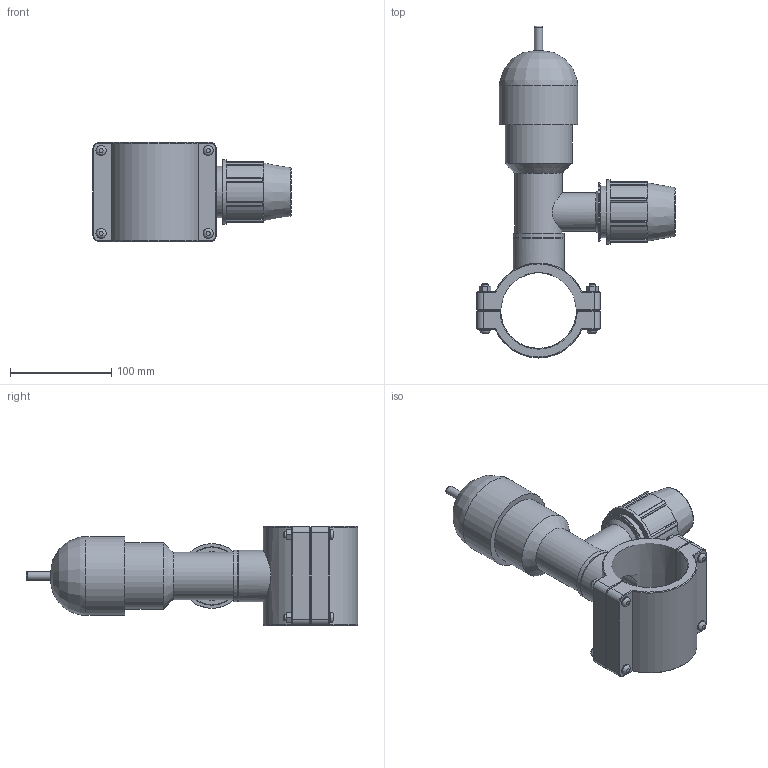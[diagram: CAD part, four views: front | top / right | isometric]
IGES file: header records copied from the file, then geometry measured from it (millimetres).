
Global section: file name: 186800075032.ipt; native system: Autodesk Inventor 2015; preprocessor: unknown; author: KIM; date: 20170618.094016; units: millimetre
Bounding box: 196 x 328.38 x 98 mm (x, y, z)
Volume: 991645.4 mm3; surface area: 173432.2 mm2
Topology: 1 solids, 1 shells, 224 faces, 557 edges, 361 vertices
Faces by surface type: plane 133, cylinder 43, cone 29, revolution 19
Full cylindrical faces by diameter (mm): 6 x4, 8.19 x1, 10 x8, 38.4 x1, 38.952 x1, 46.742 x1, 50.638 x2, 51.2 x1, 57.6 x1, 64 x1, 66.218 x1, 77.904 x1
